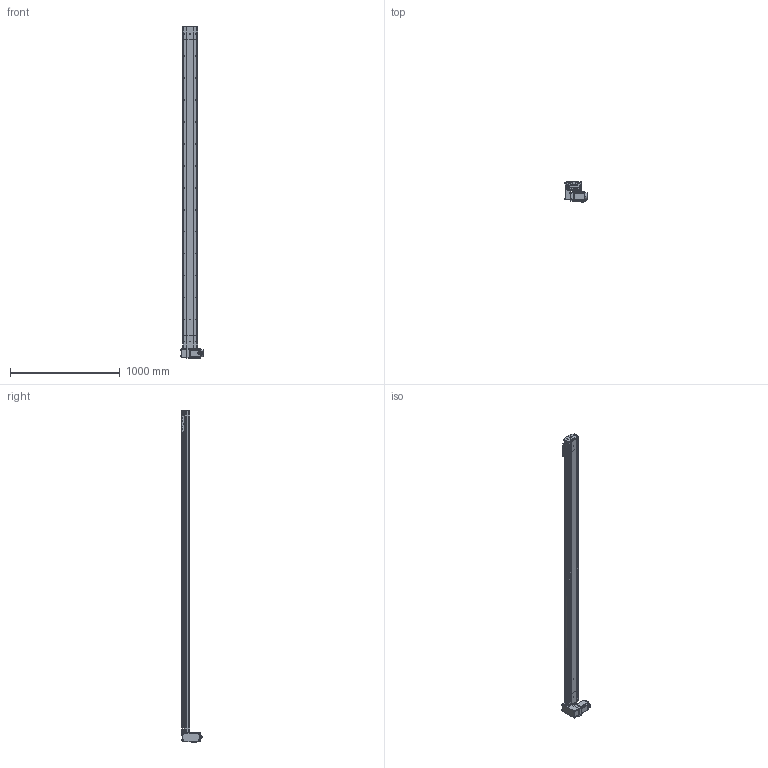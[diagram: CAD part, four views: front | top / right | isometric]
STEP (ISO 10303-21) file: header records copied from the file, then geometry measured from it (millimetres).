
FILE_DESCRIPTION (( 'STEP AP214' ), '1' );
FILE_NAME ('D14 TBH RU S2700.STEP', '2010-06-29T14:36:31', ( 'Conseil Régional Haute-Normandie' ), ( 'Conseil Régional Haute-Normandie' ), 'SwSTEP 2.0', 'SolidWorks 2010', '' );
FILE_SCHEMA (( 'AUTOMOTIVE_DESIGN' ));
Length unit declared in the file: millimetre
Products named in the file (39): D14 couroie L2700_Default; D14 TBH RU S2700; corp head D14_Default; Arbre+rail head D14; plaque de  bout head D14 RU_Default; poulie head_Default; couroie 2_Default; Rail + couroie D14 Course 2700 ; corpl 2700_Default; couvercle D14 course L2700_Default; corpl tail D14_Default; Tail D14B_Default; tete d''axe haut D14; plaque de  bout tail D14_Default; vis M5 L16_Default; D14 TB H RU_Default; Arbre+rail tail D14; couvercle D14_Default; vis M5 L8 90°_Default; vis M5 L12_Default; guide D14; Chariot D14; chariot D14B_Default; renvoi RH_Default; Cache arbre_Default; poulie tail_Default; Cache_Default; Cvis M5 L70_Default; Vis M5 L16-2_Default; vis M5 L5_Default; Plaque racord D14_Default; Conecteur_Default; Conecteur2_Default; codeur 90BLDC100-640; corps 90BLDC100A-640; avant 90BLDC100A-640; Moteur motionking 90BLDC100A-640; couvercle D14 head_Default; Couroie_Default
Assembly tree (68 placements, depth 4):
  D14 TBH RU S2700
    D14 TB H RU_Default
      vis M5 L5_Default  x2
      Cvis M5 L70_Default  x4
      Vis M5 L16-2_Default  x4
      vis M5 L12_Default  x12
      Cache arbre_Default
      Cache_Default  x2
      couvercle D14 head_Default
      Moteur motionking 90BLDC100A-640
        corps 90BLDC100A-640
        avant 90BLDC100A-640
        codeur 90BLDC100-640
        Conecteur_Default
        Conecteur2_Default
      renvoi RH_Default
      couroie 2_Default
      plaque de  bout head D14 RU_Default
      Arbre+rail head D14
      Plaque racord D14_Default
      corp head D14_Default
      poulie head_Default
    chariot D14B_Default
      vis M5 L12_Default  x4
      Chariot D14
      guide D14  x2
    D14 couroie L2700_Default
      couvercle D14 course L2700_Default
      Rail + couroie D14 Course 2700 
      corpl 2700_Default
    Tail D14B_Default
      vis M5 L12_Default  x4
      vis M5 L16_Default  x2
      Arbre+rail tail D14
      corpl tail D14_Default
      vis M5 L8 90°_Default  x2
      tete d''axe haut D14
      plaque de  bout tail D14_Default
      couvercle D14_Default
      poulie tail_Default
      Couroie_Default
Bounding box: 207.2 x 191.1 x 3025.75 mm (x, y, z)
Volume: 11251137.7 mm3; surface area: 4082905.9 mm2
Topology: 92 solids, 92 shells, 2741 faces, 6683 edges, 4314 vertices
Faces by surface type: plane 1617, cylinder 811, bspline 136, torus 89, cone 84, sphere 4
Entity records: 82448 total; most frequent: CARTESIAN_POINT 24077, ORIENTED_EDGE 10226, DIRECTION 10140, EDGE_CURVE 5113, AXIS2_PLACEMENT_3D 3391, VERTEX_POINT 3364, VECTOR 3358, LINE 3358
